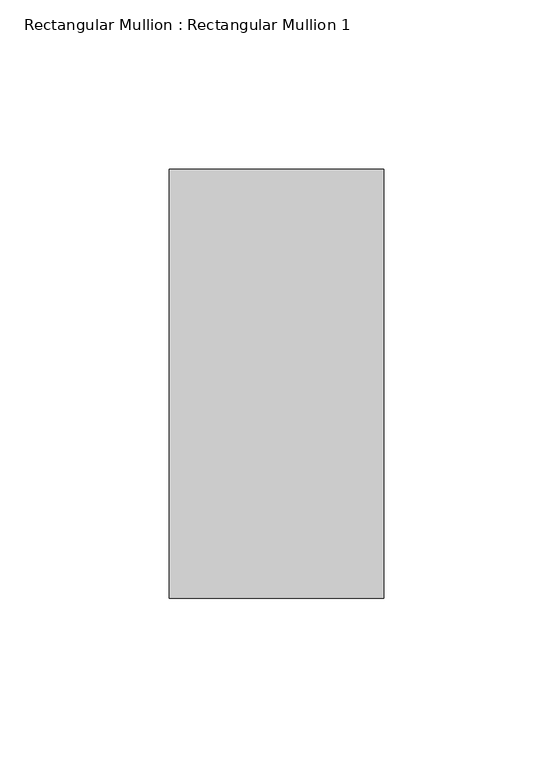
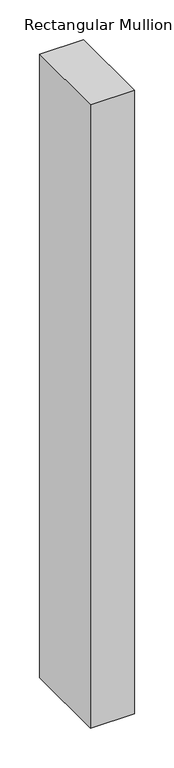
"""IFC4 building model written with IfcOpenShell, lengths in millimetres: member geometry, Rectangular Mullion : Rectangular Mullion 1."""

from ifc_helpers import new_model, si_unit, frame, origin, place, context, project, spatial, polyline, outline, extrude, source, transform, mapped, element, save


def rectangular_mullion_rectangular_mullion_1_a2c6934b(model_context):
    return source(origin(), model_context, "Body", "SweptSolid", [
        extrude(outline(polyline([(31.75, 63.5), (31.75, -63.5), (-31.75, -63.5), (-31.75, 63.5), (31.75, 63.5)])), frame((0.0, 0.0, -952.9303874), z_axis=(0.0, 0.0, 1.0), x_axis=(1.0, 0.0, 0.0)), (0.0, 0.0, 1.0), 952.9303874),
    ])


if __name__ == "__main__":
    model = new_model("IFC4")
    model_context = context("Model", 3, world=origin())
    ifc_project = project(units=[si_unit("LENGTHUNIT", "METRE", prefix="MILLI")], contexts=[model_context])
    site = spatial("IfcSite", under=ifc_project)
    building = spatial("IfcBuilding", under=site)
    placement = place(None, origin())
    rectangular_mullion_rectangular_mullion_1_shape = rectangular_mullion_rectangular_mullion_1_a2c6934b(model_context)
    element("IfcMember", 1, ObjectType="Rectangular Mullion : Rectangular Mullion 1", at=placement, inside=building, context=model_context, shape_type="MappedRepresentation", body=[
        mapped(rectangular_mullion_rectangular_mullion_1_shape, transform((0.0, 0.0, 0.0), x_axis=(1.0, 0.0, 0.0), y_axis=(0.0, 1.0, 0.0), z_axis=(0.0, 0.0, 1.0))),
    ])
    save(model, "model.ifc")
